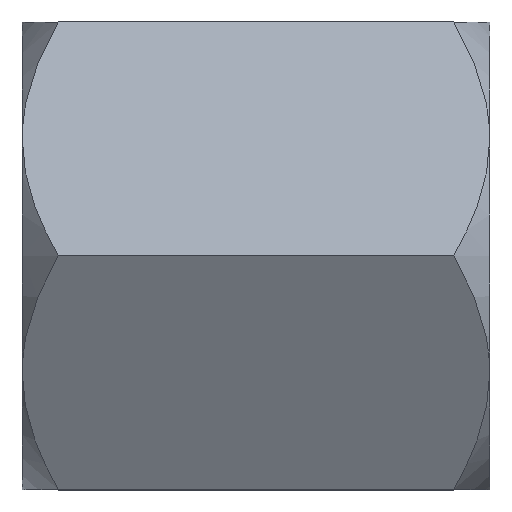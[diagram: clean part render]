
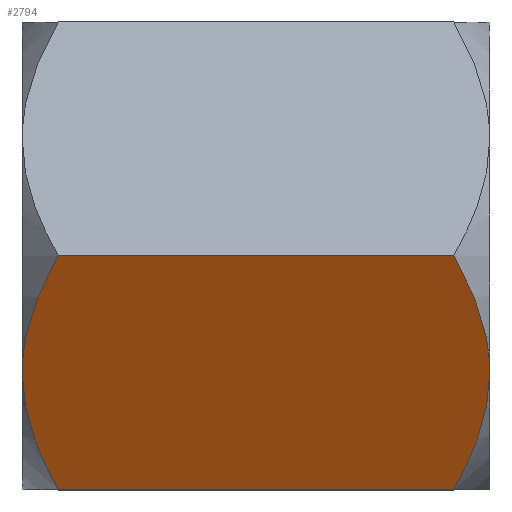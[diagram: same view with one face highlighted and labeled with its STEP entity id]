
A CAD part, top view. The second image highlights one B-rep face of the part: STEP entity #2794.
In plain terms, the highlighted planar face has unit normal (0, -0.5, 0.866).
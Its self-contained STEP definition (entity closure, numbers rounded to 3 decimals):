
#1233=DIRECTION('',(-1.,0.,0.));
#1234=VECTOR('',#1233,20.287);
#1235=CARTESIAN_POINT('',(10.144,0.,
13.856));
#1236=LINE('',#1235,#1234);
#1256=CARTESIAN_POINT('',(10.144,0.,
13.856));
#1257=CARTESIAN_POINT('',(10.405,-0.452,
13.595));
#1258=CARTESIAN_POINT('',(10.867,-1.331,13.088));
#1259=CARTESIAN_POINT('',(11.378,-2.549,12.385));
#1260=CARTESIAN_POINT('',(11.738,-3.721,11.708));
#1261=CARTESIAN_POINT('',(11.952,-4.865,11.048));
#1262=CARTESIAN_POINT('',(12.,-5.623,10.61));
#1263=CARTESIAN_POINT('',(12.,-6.,10.392));
#1265=CARTESIAN_POINT('',(12.,-6.,10.392));
#1266=CARTESIAN_POINT('',(12.,-6.314,10.211));
#1267=CARTESIAN_POINT('',(11.967,-6.946,9.846));
#1268=CARTESIAN_POINT('',(11.818,-7.896,9.297));
#1269=CARTESIAN_POINT('',(11.569,-8.862,8.74));
#1270=CARTESIAN_POINT('',(11.217,-9.854,8.167));
#1271=CARTESIAN_POINT('',(10.755,-10.887,7.571));
#1272=CARTESIAN_POINT('',(10.362,-11.622,7.146));
#1273=CARTESIAN_POINT('',(10.144,-12.,6.928));
#1275=DIRECTION('',(-1.,0.,0.));
#1276=VECTOR('',#1275,20.287);
#1277=CARTESIAN_POINT('',(10.144,-12.,6.928));
#1278=LINE('',#1277,#1276);
#1279=CARTESIAN_POINT('',(-12.,-6.,10.392));
#1280=CARTESIAN_POINT('',(-12.,-6.314,10.211));
#1281=CARTESIAN_POINT('',(-11.967,-6.946,
9.846));
#1282=CARTESIAN_POINT('',(-11.818,-7.896,
9.297));
#1283=CARTESIAN_POINT('',(-11.569,-8.862,
8.74));
#1284=CARTESIAN_POINT('',(-11.217,-9.854,
8.167));
#1285=CARTESIAN_POINT('',(-10.755,-10.887,
7.571));
#1286=CARTESIAN_POINT('',(-10.362,-11.622,
7.146));
#1287=CARTESIAN_POINT('',(-10.144,-12.,6.928));
#1289=CARTESIAN_POINT('',(-10.144,0.,
13.856));
#1290=CARTESIAN_POINT('',(-10.405,-0.452,
13.595));
#1291=CARTESIAN_POINT('',(-10.867,-1.331,
13.088));
#1292=CARTESIAN_POINT('',(-11.378,-2.549,
12.385));
#1293=CARTESIAN_POINT('',(-11.738,-3.721,
11.708));
#1294=CARTESIAN_POINT('',(-11.952,-4.865,
11.048));
#1295=CARTESIAN_POINT('',(-12.,-5.623,10.61));
#1296=CARTESIAN_POINT('',(-12.,-6.,10.392));
#1507=CARTESIAN_POINT('',(-12.,-6.,10.392));
#1508=VERTEX_POINT('',#1507);
#1519=CARTESIAN_POINT('',(12.,-6.,10.392));
#1520=VERTEX_POINT('',#1519);
#1527=VERTEX_POINT('',#1256);
#1528=VERTEX_POINT('',#1273);
#1529=VERTEX_POINT('',#1289);
#1530=VERTEX_POINT('',#1287);
#2778=CARTESIAN_POINT('',(16.499,-12.,6.928));
#2779=DIRECTION('',(0.,0.5,-0.866));
#2780=DIRECTION('',(0.,0.866,0.5));
#2781=AXIS2_PLACEMENT_3D('',#2778,#2779,#2780);
#2782=PLANE('',#2781);
#2783=ORIENTED_EDGE('',*,*,#2739,.T.);
#2784=ORIENTED_EDGE('',*,*,#2754,.T.);
#2786=ORIENTED_EDGE('',*,*,#2785,.T.);
#2788=ORIENTED_EDGE('',*,*,#2787,.F.);
#2790=ORIENTED_EDGE('',*,*,#2789,.F.);
#2791=ORIENTED_EDGE('',*,*,#2767,.F.);
#2792=EDGE_LOOP('',(#2783,#2784,#2786,#2788,#2790,#2791));
#2793=FACE_OUTER_BOUND('',#2792,.F.);
#2794=ADVANCED_FACE('',(#2793),#2782,.F.);
#1264=B_SPLINE_CURVE_WITH_KNOTS('',3,(#1256,#1257,#1258,#1259,#1260,#1261,#1262,
#1263),.UNSPECIFIED.,.F.,.F.,(4,1,1,1,1,4),(0.,0.2,0.4,0.6,0.8,1.),
.UNSPECIFIED.);
#1274=B_SPLINE_CURVE_WITH_KNOTS('',3,(#1265,#1266,#1267,#1268,#1269,#1270,#1271,
#1272,#1273),.UNSPECIFIED.,.F.,.F.,(4,1,1,1,1,1,4),(0.,0.167,
0.333,0.5,0.667,0.833,1.),
.UNSPECIFIED.);
#1288=B_SPLINE_CURVE_WITH_KNOTS('',3,(#1279,#1280,#1281,#1282,#1283,#1284,#1285,
#1286,#1287),.UNSPECIFIED.,.F.,.F.,(4,1,1,1,1,1,4),(0.,0.167,
0.333,0.5,0.667,0.833,1.),
.UNSPECIFIED.);
#1297=B_SPLINE_CURVE_WITH_KNOTS('',3,(#1289,#1290,#1291,#1292,#1293,#1294,#1295,
#1296),.UNSPECIFIED.,.F.,.F.,(4,1,1,1,1,4),(0.,0.2,0.4,0.6,0.8,1.),
.UNSPECIFIED.);
#2739=EDGE_CURVE('',#1527,#1520,#1264,.T.);
#2754=EDGE_CURVE('',#1520,#1528,#1274,.T.);
#2767=EDGE_CURVE('',#1527,#1529,#1236,.T.);
#2785=EDGE_CURVE('',#1528,#1530,#1278,.T.);
#2787=EDGE_CURVE('',#1508,#1530,#1288,.T.);
#2789=EDGE_CURVE('',#1529,#1508,#1297,.T.);
